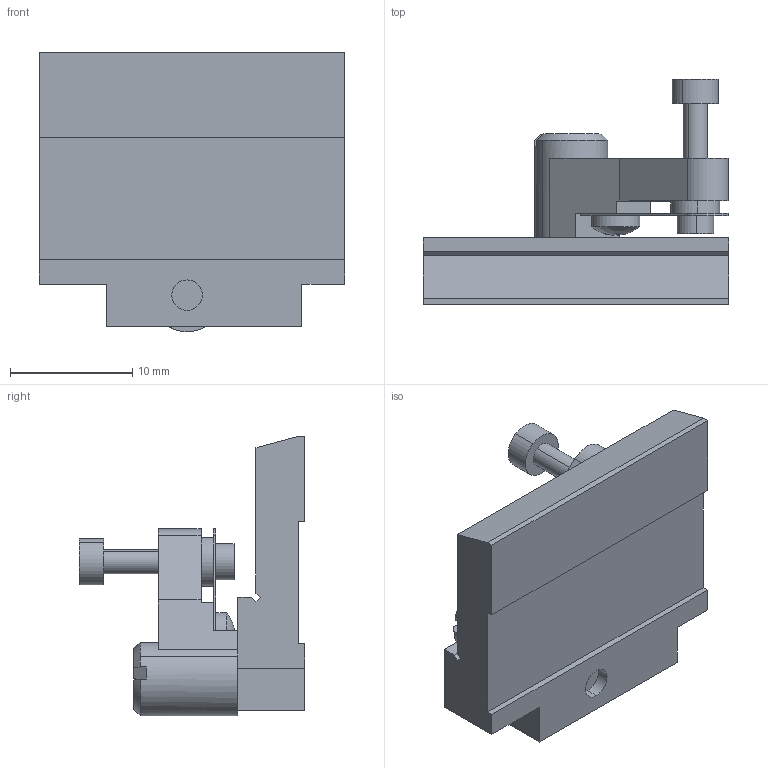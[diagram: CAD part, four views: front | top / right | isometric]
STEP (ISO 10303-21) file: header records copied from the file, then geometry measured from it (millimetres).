
FILE_DESCRIPTION (( 'STEP AP203' ), '1' );
FILE_NAME ('E340L-1-B.STEP', '2023-01-10T02:53:09', ( '' ), ( '' ), 'SwSTEP 2.0', 'SolidWorks 2017', '' );
FILE_SCHEMA (( 'CONFIG_CONTROL_DESIGN' ));
Length unit declared in the file: millimetre
Products named in the file (4): E340L-1-B; E340L-1-B-prt1; E340L-1-B-prt0; E340L-1-B-prt2
Assembly tree (3 placements, depth 2):
  E340L-1-B
    E340L-1-B-prt0
    E340L-1-B-prt1
    E340L-1-B-prt2
Bounding box: 25 x 18.48 x 22.9 mm (x, y, z)
Volume: 2806.7 mm3; surface area: 2242.3 mm2
Topology: 3 solids, 3 shells, 104 faces, 263 edges, 171 vertices
Faces by surface type: plane 70, cylinder 26, bspline 4, torus 2, sphere 2
Entity records: 3585 total; most frequent: CARTESIAN_POINT 602, DIRECTION 556, ORIENTED_EDGE 526, EDGE_CURVE 263, AXIS2_PLACEMENT_3D 193, VERTEX_POINT 171, VECTOR 170, LINE 170
